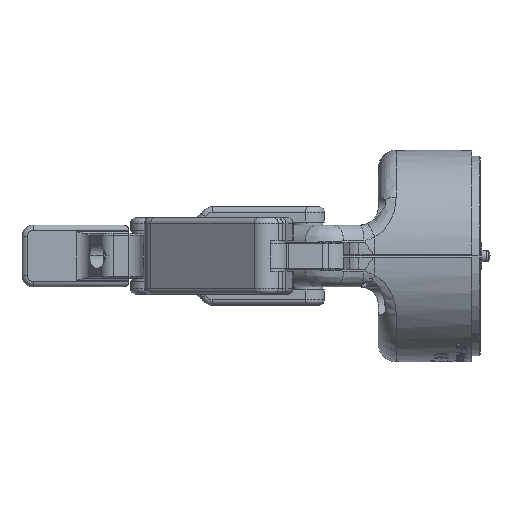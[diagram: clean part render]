
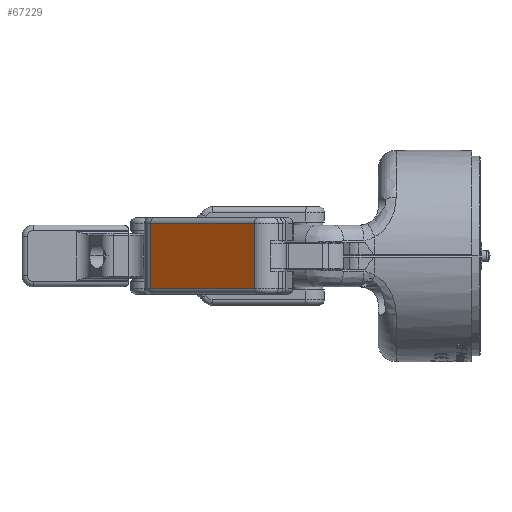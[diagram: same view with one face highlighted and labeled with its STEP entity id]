
A CAD part, left-side view. The second image highlights one B-rep face of the part: STEP entity #67229.
In plain terms, the highlighted planar face has unit normal (-0.776, 0.631, 0).
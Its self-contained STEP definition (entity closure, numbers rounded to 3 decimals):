
#5661 = CARTESIAN_POINT ( 'NONE',  ( -61.832, 80.295, 11.6 ) ) ;
#13623 = ORIENTED_EDGE ( 'NONE', *, *, #209583, .T. ) ;
#24928 = DIRECTION ( 'NONE',  ( -0.631, -0.776, 0. ) ) ;
#31376 = LINE ( 'NONE', #205505, #196351 ) ;
#39946 = VECTOR ( 'NONE', #194096, 1000. ) ;
#48540 = CARTESIAN_POINT ( 'NONE',  ( -31.856, 117.167, 11.6 ) ) ;
#60894 = CARTESIAN_POINT ( 'NONE',  ( -31.856, 117.167, -13.6 ) ) ;
#62862 = CARTESIAN_POINT ( 'NONE',  ( -61.832, 80.295, -13.6 ) ) ;
#67229 = ADVANCED_FACE ( 'NONE', ( #226030 ), #94170, .F. ) ;
#72589 = ORIENTED_EDGE ( 'NONE', *, *, #159938, .T. ) ;
#76890 = VERTEX_POINT ( 'NONE', #126496 ) ;
#82922 = DIRECTION ( 'NONE',  ( 0., 0., 1. ) ) ;
#85906 = EDGE_LOOP ( 'NONE', ( #13623, #72589, #208300, #115628 ) ) ;
#85965 = AXIS2_PLACEMENT_3D ( 'NONE', #164084, #130287, #24928 ) ;
#94170 = PLANE ( 'NONE',  #85965 ) ;
#103425 = CARTESIAN_POINT ( 'NONE',  ( -61.832, 80.295, -11.6 ) ) ;
#115628 = ORIENTED_EDGE ( 'NONE', *, *, #207595, .T. ) ;
#116176 = LINE ( 'NONE', #60894, #204268 ) ;
#116300 = DIRECTION ( 'NONE',  ( 0.631, 0.776, 0. ) ) ;
#126496 = CARTESIAN_POINT ( 'NONE',  ( -61.832, 80.295, -11.6 ) ) ;
#128082 = CARTESIAN_POINT ( 'NONE',  ( -31.856, 117.167, -11.6 ) ) ;
#130287 = DIRECTION ( 'NONE',  ( 0.776, -0.631, 0. ) ) ;
#130830 = LINE ( 'NONE', #103425, #39946 ) ;
#141535 = LINE ( 'NONE', #62862, #155358 ) ;
#155358 = VECTOR ( 'NONE', #82922, 1000. ) ;
#159938 = EDGE_CURVE ( 'NONE', #191656, #177241, #31376, .T. ) ;
#164084 = CARTESIAN_POINT ( 'NONE',  ( -61.832, 80.295, -13.6 ) ) ;
#177241 = VERTEX_POINT ( 'NONE', #48540 ) ;
#191656 = VERTEX_POINT ( 'NONE', #5661 ) ;
#194096 = DIRECTION ( 'NONE',  ( -0.631, -0.776, 0. ) ) ;
#196351 = VECTOR ( 'NONE', #116300, 1000. ) ;
#199349 = DIRECTION ( 'NONE',  ( 0., 0., 1. ) ) ;
#204268 = VECTOR ( 'NONE', #199349, 1000. ) ;
#205505 = CARTESIAN_POINT ( 'NONE',  ( -61.832, 80.295, 11.6 ) ) ;
#207595 = EDGE_CURVE ( 'NONE', #225913, #76890, #130830, .T. ) ;
#208300 = ORIENTED_EDGE ( 'NONE', *, *, #222929, .F. ) ;
#209583 = EDGE_CURVE ( 'NONE', #76890, #191656, #141535, .T. ) ;
#222929 = EDGE_CURVE ( 'NONE', #225913, #177241, #116176, .T. ) ;
#225913 = VERTEX_POINT ( 'NONE', #128082 ) ;
#226030 = FACE_OUTER_BOUND ( 'NONE', #85906, .T. ) ;
